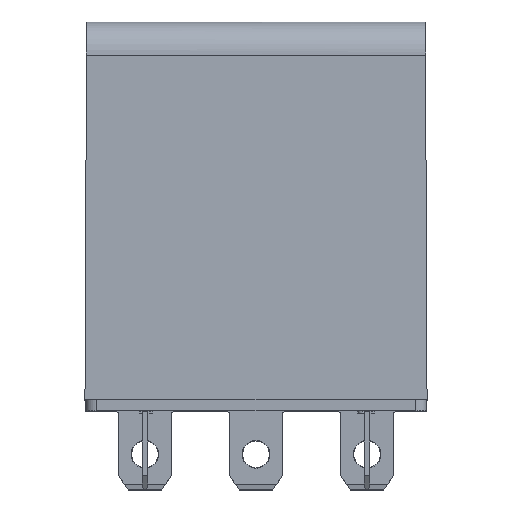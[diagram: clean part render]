
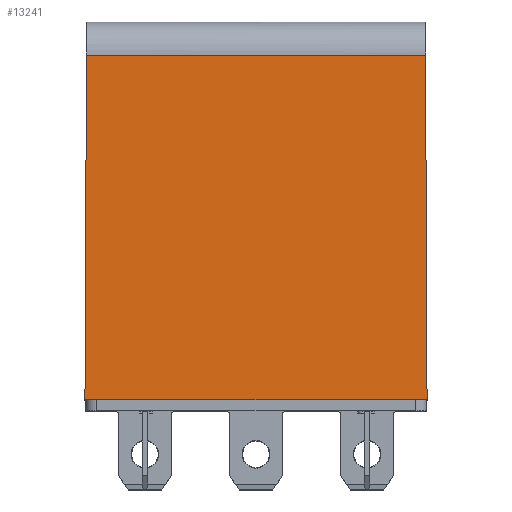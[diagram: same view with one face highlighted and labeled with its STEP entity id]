
A CAD part, top view. The second image highlights one B-rep face of the part: STEP entity #13241.
In plain terms, the highlighted planar face has unit normal (0, 0.004, 1).
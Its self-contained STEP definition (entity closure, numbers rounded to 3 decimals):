
#1359 = AXIS2_PLACEMENT_3D ( 'NONE', #16609, #6764, #18256 ) ;
#1802 = VECTOR ( 'NONE', #15953, 1000. ) ;
#2220 = LINE ( 'NONE', #7559, #11447 ) ;
#2841 = EDGE_CURVE ( 'NONE', #9266, #18138, #2220, .T. ) ;
#3063 = LINE ( 'NONE', #13632, #18957 ) ;
#3333 = LINE ( 'NONE', #6754, #15385 ) ;
#3819 = DIRECTION ( 'NONE',  ( -0.004, -1., 0.004 ) ) ;
#3973 = ORIENTED_EDGE ( 'NONE', *, *, #19123, .T. ) ;
#5163 = PLANE ( 'NONE',  #1359 ) ;
#5446 = CARTESIAN_POINT ( 'NONE',  ( 15.265, 32.013, 13.465 ) ) ;
#5986 = CARTESIAN_POINT ( 'NONE',  ( 15.4, 1., 13.6 ) ) ;
#6259 = VERTEX_POINT ( 'NONE', #17647 ) ;
#6632 = LINE ( 'NONE', #5986, #1802 ) ;
#6754 = CARTESIAN_POINT ( 'NONE',  ( 20., 32.013, 13.465 ) ) ;
#6764 = DIRECTION ( 'NONE',  ( 0., 0.004, 1. ) ) ;
#7559 = CARTESIAN_POINT ( 'NONE',  ( 15.4, 1., 13.6 ) ) ;
#8289 = CARTESIAN_POINT ( 'NONE',  ( 15.4, 1., 13.6 ) ) ;
#9266 = VERTEX_POINT ( 'NONE', #15625 ) ;
#9606 = EDGE_CURVE ( 'NONE', #10514, #6259, #3333, .T. ) ;
#10138 = DIRECTION ( 'NONE',  ( -1., 0., 0. ) ) ;
#10514 = VERTEX_POINT ( 'NONE', #5446 ) ;
#11447 = VECTOR ( 'NONE', #15608, 1000. ) ;
#11746 = FACE_OUTER_BOUND ( 'NONE', #14180, .T. ) ;
#13241 = ADVANCED_FACE ( 'NONE', ( #11746 ), #5163, .T. ) ;
#13632 = CARTESIAN_POINT ( 'NONE',  ( -15.399, 1.134, 13.599 ) ) ;
#14180 = EDGE_LOOP ( 'NONE', ( #17759, #15375, #16144, #3973 ) ) ;
#15375 = ORIENTED_EDGE ( 'NONE', *, *, #20279, .F. ) ;
#15385 = VECTOR ( 'NONE', #10138, 1000. ) ;
#15608 = DIRECTION ( 'NONE',  ( 1., 0., 0. ) ) ;
#15625 = CARTESIAN_POINT ( 'NONE',  ( -15.4, 1., 13.6 ) ) ;
#15953 = DIRECTION ( 'NONE',  ( 0.004, -1., 0.004 ) ) ;
#16144 = ORIENTED_EDGE ( 'NONE', *, *, #9606, .T. ) ;
#16609 = CARTESIAN_POINT ( 'NONE',  ( 15.4, 1., 13.6 ) ) ;
#17647 = CARTESIAN_POINT ( 'NONE',  ( -15.265, 32.013, 13.465 ) ) ;
#17759 = ORIENTED_EDGE ( 'NONE', *, *, #2841, .T. ) ;
#18138 = VERTEX_POINT ( 'NONE', #8289 ) ;
#18256 = DIRECTION ( 'NONE',  ( 1., 0., 0. ) ) ;
#18957 = VECTOR ( 'NONE', #3819, 1000. ) ;
#19123 = EDGE_CURVE ( 'NONE', #6259, #9266, #3063, .T. ) ;
#20279 = EDGE_CURVE ( 'NONE', #10514, #18138, #6632, .T. ) ;
